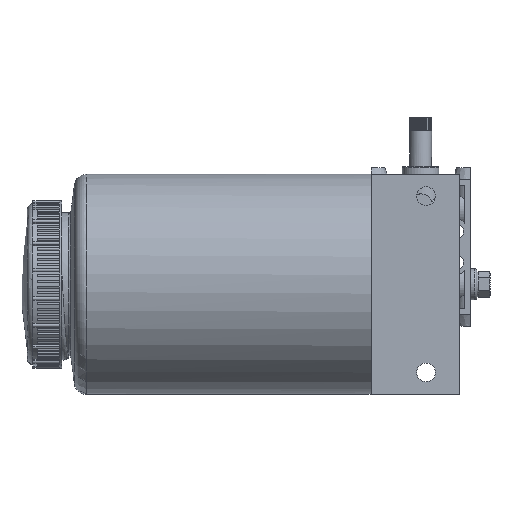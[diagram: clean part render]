
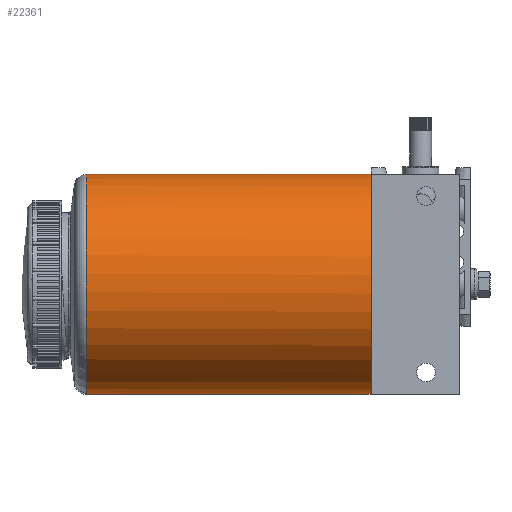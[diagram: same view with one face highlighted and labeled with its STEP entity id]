
A CAD part, front view. The second image highlights one B-rep face of the part: STEP entity #22361.
In plain terms, the highlighted cylindrical face has radius 50 mm (diameter 100 mm), a full revolution.
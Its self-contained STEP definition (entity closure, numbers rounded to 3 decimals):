
#13313=CARTESIAN_POINT('',(0.,57.75,99.924));
#13314=VERTEX_POINT('',#13313);
#13315=CARTESIAN_POINT('',(0.,62.512,99.432));
#13316=VERTEX_POINT('',#13315);
#13317=CARTESIAN_POINT('',(0.,55.,50.0));
#13318=DIRECTION('',(-1.0,0.0,0.0));
#13319=DIRECTION('',(0.0,0.0,1.0));
#13320=AXIS2_PLACEMENT_3D('',#13317,#13318,#13319);
#13321=CIRCLE('',#13320,50.0);
#13322=EDGE_CURVE('',#13314,#13316,#13321,.T.);
#14212=CARTESIAN_POINT('',(0.,47.488,99.432));
#14213=VERTEX_POINT('',#14212);
#14214=CARTESIAN_POINT('',(0.,52.25,99.924));
#14215=VERTEX_POINT('',#14214);
#14216=CARTESIAN_POINT('',(0.,55.,50.0));
#14217=DIRECTION('',(-1.0,0.0,0.0));
#14218=DIRECTION('',(0.0,0.0,1.0));
#14219=AXIS2_PLACEMENT_3D('',#14216,#14217,#14218);
#14220=CIRCLE('',#14219,50.0);
#14221=EDGE_CURVE('',#14213,#14215,#14220,.T.);
#21415=CARTESIAN_POINT('',(0.,55.,50.0));
#21416=DIRECTION('',(-1.0,0.0,0.0));
#21417=DIRECTION('',(0.0,0.0,1.0));
#21418=AXIS2_PLACEMENT_3D('',#21415,#21416,#21417);
#21419=CIRCLE('',#21418,50.0);
#21420=EDGE_CURVE('',#14215,#13314,#21419,.T.);
#22315=CARTESIAN_POINT('',(-1.5,55.,50.0));
#22316=DIRECTION('',(-1.0,0.0,0.0));
#22317=DIRECTION('',(0.0,0.0,1.0));
#22318=AXIS2_PLACEMENT_3D('',#22315,#22316,#22317);
#22319=CYLINDRICAL_SURFACE('',#22318,50.0);
#22320=CARTESIAN_POINT('',(-129.119,98.301,25.0));
#22321=VERTEX_POINT('',#22320);
#22322=CARTESIAN_POINT('',(-129.119,55.0,50.0));
#22323=DIRECTION('',(-1.,0.0,0.0));
#22324=DIRECTION('',(0.0,-0.866,0.5));
#22325=AXIS2_PLACEMENT_3D('',#22322,#22323,#22324);
#22326=CIRCLE('',#22325,50.0);
#22327=EDGE_CURVE('',#22321,#22321,#22326,.T.);
#22328=ORIENTED_EDGE('',*,*,#22327,.F.);
#22329=EDGE_LOOP('',(#22328));
#22330=FACE_OUTER_BOUND('',#22329,.T.);
#22331=CARTESIAN_POINT('',(0.0,40.0,97.697));
#22332=VERTEX_POINT('',#22331);
#22333=CARTESIAN_POINT('',(0.,55.,50.0));
#22334=DIRECTION('',(-1.0,0.0,0.0));
#22335=DIRECTION('',(0.0,0.0,1.0));
#22336=AXIS2_PLACEMENT_3D('',#22333,#22334,#22335);
#22337=CIRCLE('',#22336,50.0);
#22338=EDGE_CURVE('',#22332,#14213,#22337,.T.);
#22339=ORIENTED_EDGE('',*,*,#22338,.T.);
#22340=ORIENTED_EDGE('',*,*,#14221,.T.);
#22341=ORIENTED_EDGE('',*,*,#21420,.T.);
#22342=ORIENTED_EDGE('',*,*,#13322,.T.);
#22343=CARTESIAN_POINT('',(0.0,40.0,2.303));
#22344=VERTEX_POINT('',#22343);
#22345=CARTESIAN_POINT('',(0.,55.,50.0));
#22346=DIRECTION('',(-1.0,0.0,0.0));
#22347=DIRECTION('',(0.0,0.0,1.0));
#22348=AXIS2_PLACEMENT_3D('',#22345,#22346,#22347);
#22349=CIRCLE('',#22348,50.0);
#22350=EDGE_CURVE('',#13316,#22344,#22349,.T.);
#22351=ORIENTED_EDGE('',*,*,#22350,.T.);
#22352=CARTESIAN_POINT('',(0.0,55.,50.0));
#22353=DIRECTION('',(1.0,0.0,0.0));
#22354=DIRECTION('',(0.0,0.0,1.0));
#22355=AXIS2_PLACEMENT_3D('',#22352,#22353,#22354);
#22356=CIRCLE('',#22355,50.0);
#22357=EDGE_CURVE('',#22332,#22344,#22356,.T.);
#22358=ORIENTED_EDGE('',*,*,#22357,.F.);
#22359=EDGE_LOOP('',(#22339,#22340,#22341,#22342,#22351,#22358));
#22360=FACE_BOUND('',#22359,.T.);
#22361=ADVANCED_FACE('',(#22330,#22360),#22319,.T.);
